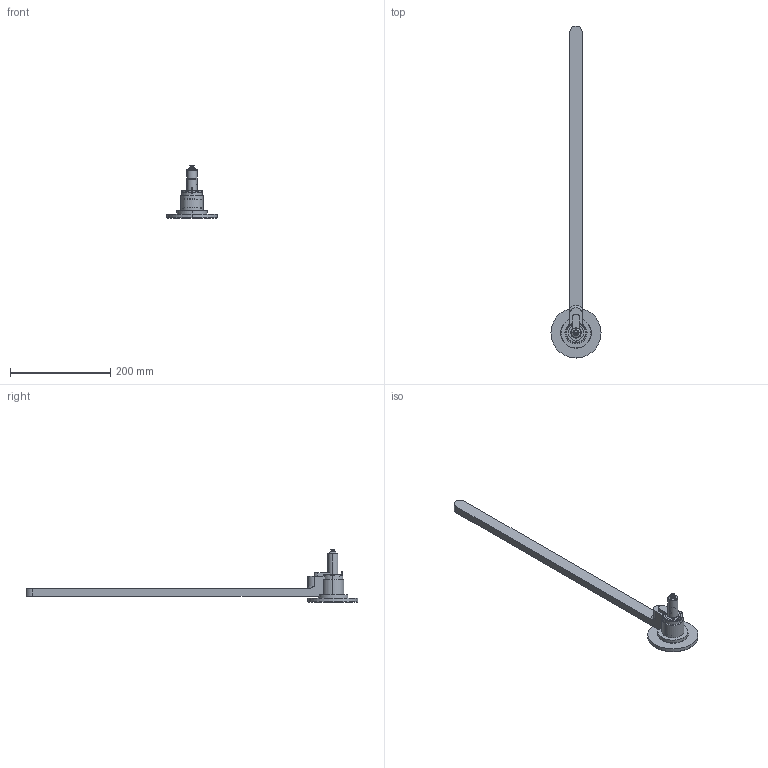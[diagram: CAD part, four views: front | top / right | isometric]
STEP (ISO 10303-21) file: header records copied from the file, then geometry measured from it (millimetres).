
FILE_DESCRIPTION (( 'STEP AP214' ), '1' );
FILE_NAME ('06S-03-050-TTW.STEP', '2023-01-04T09:28:31', ( '' ), ( '' ), 'SwSTEP 2.0', 'SolidWorks 2018', '' );
FILE_SCHEMA (( 'AUTOMOTIVE_DESIGN' ));
Length unit declared in the file: millimetre
Products named in the file (3): cutout_06S-03-050-TTW; nozzle_06S-03-050-TTW; 06S-03-050-TTW
Assembly tree (2 placements, depth 2):
  06S-03-050-TTW
    nozzle_06S-03-050-TTW
    cutout_06S-03-050-TTW
Bounding box: 100 x 662.5 x 105 mm (x, y, z)
Volume: 372851.4 mm3; surface area: 94607.3 mm2
Topology: 1 solids, 6 shells, 526 faces, 1362 edges, 841 vertices
Faces by surface type: cylinder 193, plane 152, cone 90, torus 71, bspline 11, sphere 9
Entity records: 21097 total; most frequent: CARTESIAN_POINT 7935, DIRECTION 2888, ORIENTED_EDGE 2700, EDGE_CURVE 1351, AXIS2_PLACEMENT_3D 1187, VERTEX_POINT 841, CIRCLE 666, EDGE_LOOP 553
